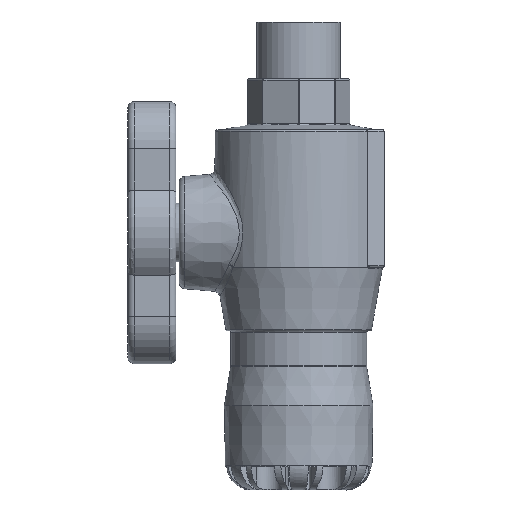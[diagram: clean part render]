
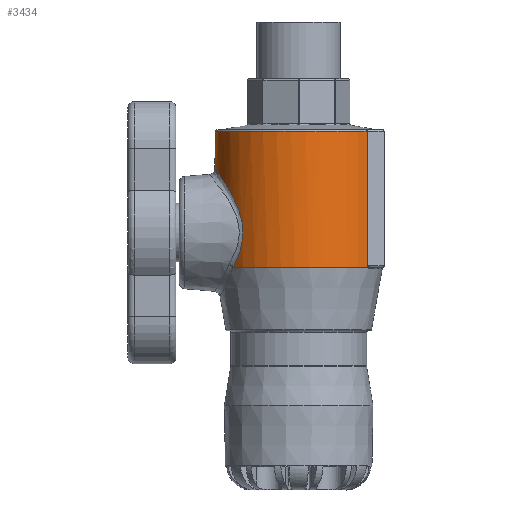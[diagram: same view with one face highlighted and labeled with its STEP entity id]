
A CAD part, left-side view. The second image highlights one B-rep face of the part: STEP entity #3434.
In plain terms, the highlighted cylindrical face has radius 26.5 mm (diameter 53 mm), a partial arc.
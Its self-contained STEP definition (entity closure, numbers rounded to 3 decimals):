
#131=B_SPLINE_CURVE_WITH_KNOTS('',3,(#6375,#6376,#6377,#6378,#6379,#6380,
#6381,#6382,#6383,#6384,#6385,#6386,#6387,#6388,#6389,#6390,#6391,#6392,
#6393),.UNSPECIFIED.,.F.,.F.,(4,1,1,1,1,1,1,1,1,1,1,1,1,1,1,1,4),(-9.286,
-8.623,-8.291,-7.959,-7.296,
-6.633,-5.97,-5.306,-4.864,
-3.98,-3.538,-2.653,-1.99,
-1.327,-0.995,-0.663,0.),
 .UNSPECIFIED.);
#133=B_SPLINE_CURVE_WITH_KNOTS('',3,(#6417,#6418,#6419,#6420),
 .UNSPECIFIED.,.F.,.F.,(4,4),(0.,0.051),.UNSPECIFIED.);
#134=B_SPLINE_CURVE_WITH_KNOTS('',3,(#6428,#6429,#6430,#6431),
 .UNSPECIFIED.,.F.,.F.,(4,4),(-0.051,0.),.UNSPECIFIED.);
#221=CYLINDRICAL_SURFACE('',#3776,26.5);
#446=FACE_OUTER_BOUND('',#665,.T.);
#665=EDGE_LOOP('',(#2716,#2717,#2718,#2719,#2720,#2721,#2722,#2723));
#885=LINE('',#6422,#1057);
#886=LINE('',#6426,#1058);
#1057=VECTOR('',#4512,10.);
#1058=VECTOR('',#4515,10.);
#1249=CIRCLE('',#3777,26.5);
#1250=CIRCLE('',#3778,26.5);
#1251=CIRCLE('',#3779,26.5);
#1543=VERTEX_POINT('',#6171);
#1549=VERTEX_POINT('',#6270);
#1550=VERTEX_POINT('',#6414);
#1551=VERTEX_POINT('',#6416);
#1552=VERTEX_POINT('',#6421);
#1553=VERTEX_POINT('',#6423);
#1554=VERTEX_POINT('',#6425);
#1555=VERTEX_POINT('',#6427);
#1970=EDGE_CURVE('',#1543,#1549,#131,.T.);
#1972=EDGE_CURVE('',#1550,#1543,#1249,.T.);
#1973=EDGE_CURVE('',#1551,#1550,#133,.T.);
#1974=EDGE_CURVE('',#1552,#1551,#885,.T.);
#1975=EDGE_CURVE('',#1553,#1552,#1250,.T.);
#1976=EDGE_CURVE('',#1554,#1553,#886,.T.);
#1977=EDGE_CURVE('',#1555,#1554,#134,.T.);
#1978=EDGE_CURVE('',#1549,#1555,#1251,.T.);
#2716=ORIENTED_EDGE('',*,*,#1970,.F.);
#2717=ORIENTED_EDGE('',*,*,#1972,.F.);
#2718=ORIENTED_EDGE('',*,*,#1973,.F.);
#2719=ORIENTED_EDGE('',*,*,#1974,.F.);
#2720=ORIENTED_EDGE('',*,*,#1975,.F.);
#2721=ORIENTED_EDGE('',*,*,#1976,.F.);
#2722=ORIENTED_EDGE('',*,*,#1977,.F.);
#2723=ORIENTED_EDGE('',*,*,#1978,.F.);
#3434=ADVANCED_FACE('',(#446),#221,.T.);
#3776=AXIS2_PLACEMENT_3D('',#6413,#4508,#4509);
#3777=AXIS2_PLACEMENT_3D('',#6415,#4510,#4511);
#3778=AXIS2_PLACEMENT_3D('',#6424,#4513,#4514);
#3779=AXIS2_PLACEMENT_3D('',#6432,#4516,#4517);
#4508=DIRECTION('center_axis',(0.,0.,-1.));
#4509=DIRECTION('ref_axis',(0.,1.,0.));
#4510=DIRECTION('center_axis',(0.,0.,-1.));
#4511=DIRECTION('ref_axis',(-1.,-0.025,0.));
#4512=DIRECTION('',(0.,0.,-1.));
#4513=DIRECTION('center_axis',(0.,0.,1.));
#4514=DIRECTION('ref_axis',(0.,1.,0.));
#4515=DIRECTION('',(0.,0.,1.));
#4516=DIRECTION('center_axis',(0.,0.,-1.));
#4517=DIRECTION('ref_axis',(1.,-0.025,0.));
#6171=CARTESIAN_POINT('',(-16.661,20.608,-77.503));
#6270=CARTESIAN_POINT('',(16.661,20.608,-77.503));
#6375=CARTESIAN_POINT('Ctrl Pts',(-16.661,20.608,-77.503));
#6376=CARTESIAN_POINT('Ctrl Pts',(-17.698,19.769,-75.821));
#6377=CARTESIAN_POINT('Ctrl Pts',(-18.938,18.562,-73.016));
#6378=CARTESIAN_POINT('Ctrl Pts',(-19.738,17.685,-68.756));
#6379=CARTESIAN_POINT('Ctrl Pts',(-19.844,17.559,-64.281));
#6380=CARTESIAN_POINT('Ctrl Pts',(-18.634,18.929,-58.984));
#6381=CARTESIAN_POINT('Ctrl Pts',(-15.679,21.519,-53.801));
#6382=CARTESIAN_POINT('Ctrl Pts',(-11.496,24.072,-49.676));
#6383=CARTESIAN_POINT('Ctrl Pts',(-6.755,25.786,-47.187));
#6384=CARTESIAN_POINT('Ctrl Pts',(-0.732,26.743,-45.839));
#6385=CARTESIAN_POINT('Ctrl Pts',(4.868,26.289,-46.465));
#6386=CARTESIAN_POINT('Ctrl Pts',(10.955,24.349,-49.277));
#6387=CARTESIAN_POINT('Ctrl Pts',(15.355,21.809,-53.225));
#6388=CARTESIAN_POINT('Ctrl Pts',(18.632,18.928,-58.984));
#6389=CARTESIAN_POINT('Ctrl Pts',(19.845,17.559,-64.282));
#6390=CARTESIAN_POINT('Ctrl Pts',(19.737,17.685,-68.757));
#6391=CARTESIAN_POINT('Ctrl Pts',(18.938,18.563,-73.017));
#6392=CARTESIAN_POINT('Ctrl Pts',(17.698,19.769,-75.821));
#6393=CARTESIAN_POINT('Ctrl Pts',(16.661,20.608,-77.503));
#6413=CARTESIAN_POINT('Origin',(0.,0.,-55.824));
#6414=CARTESIAN_POINT('',(-15.141,-21.748,-77.503));
#6415=CARTESIAN_POINT('Origin',(0.,0.,-77.503));
#6416=CARTESIAN_POINT('',(-15.296,-21.64,-77.047));
#6417=CARTESIAN_POINT('Ctrl Pts',(-15.296,-21.64,-77.047));
#6418=CARTESIAN_POINT('Ctrl Pts',(-15.296,-21.64,-77.216));
#6419=CARTESIAN_POINT('Ctrl Pts',(-15.232,-21.685,-77.377));
#6420=CARTESIAN_POINT('Ctrl Pts',(-15.141,-21.748,-77.503));
#6421=CARTESIAN_POINT('',(-15.296,-21.64,-34.601));
#6422=CARTESIAN_POINT('',(-15.296,-21.64,-55.824));
#6423=CARTESIAN_POINT('',(15.296,-21.64,-34.601));
#6424=CARTESIAN_POINT('Origin',(0.,0.,-34.601));
#6425=CARTESIAN_POINT('',(15.296,-21.64,-77.047));
#6426=CARTESIAN_POINT('',(15.296,-21.64,-55.824));
#6427=CARTESIAN_POINT('',(15.141,-21.748,-77.503));
#6428=CARTESIAN_POINT('Ctrl Pts',(15.141,-21.748,-77.503));
#6429=CARTESIAN_POINT('Ctrl Pts',(15.232,-21.685,-77.377));
#6430=CARTESIAN_POINT('Ctrl Pts',(15.296,-21.64,-77.216));
#6431=CARTESIAN_POINT('Ctrl Pts',(15.296,-21.64,-77.047));
#6432=CARTESIAN_POINT('Origin',(0.,0.,-77.503));
